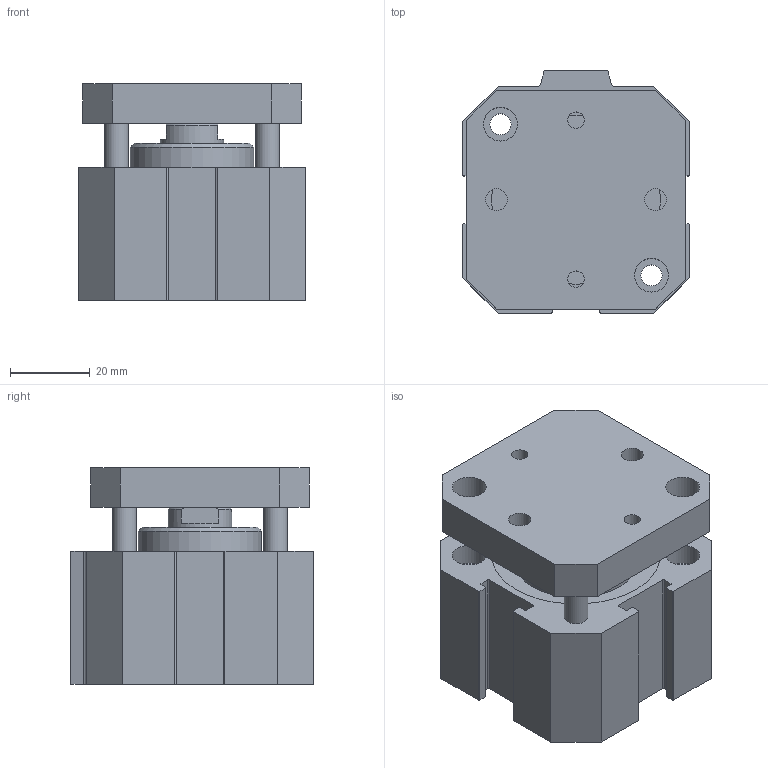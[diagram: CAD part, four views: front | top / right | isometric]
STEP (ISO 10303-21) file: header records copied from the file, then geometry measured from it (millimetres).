
FILE_DESCRIPTION(/* description */ ('TUBO PROFILATO COMPATTI Ø40'),/* implementation_level */ '2;1');
FILE_NAME(/* name */ 'I:\Area Tecnica\Disegni\VARIE-3D\Componenti\1500\Ø40\15##_40_####_#\1501_40_0000_AR.stp',/* time_stamp */ '2016-08-24T11:50:54+02:00',/* author */ ('Maniean1'),/* organization */ ('Pneumax S.p.A.'),/* preprocessor_version */ 'ST-DEVELOPER v15.2',/* originating_system */ 'Autodesk Inventor 2014',/* authorisation */ '');
FILE_SCHEMA (('AUTOMOTIVE_DESIGN { 1 0 10303 214 3 1 1 }'));
Length unit declared in the file: millimetre
Products named in the file (3): C_1501_40_0000_AR; S_1501_40_0000_AR; 1501_40_0000_AR
Bounding box: 57 x 61 x 54.5 mm (x, y, z)
Volume: 123946.4 mm3; surface area: 39143.8 mm2
Topology: 2 solids, 2 shells, 137 faces, 337 edges, 226 vertices
Faces by surface type: plane 74, cylinder 58, cone 5
Full cylindrical faces by diameter (mm): 4.134 x2, 5.3 x4, 5.5 x2, 6 x4, 8.5 x8, 8.566 x2, 9 x2, 16 x2, 31 x2, 40 x2, 42.5 x2
Entity records: 3998 total; most frequent: DIRECTION 698, CARTESIAN_POINT 662, ORIENTED_EDGE 588, EDGE_CURVE 294, AXIS2_PLACEMENT_3D 266, VERTEX_POINT 218, EDGE_LOOP 214, LINE 166
